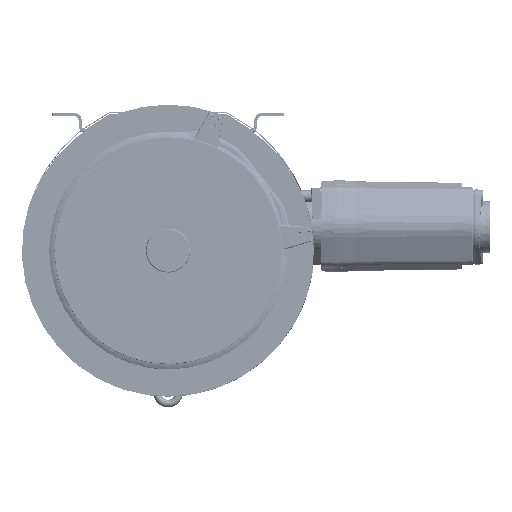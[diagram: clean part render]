
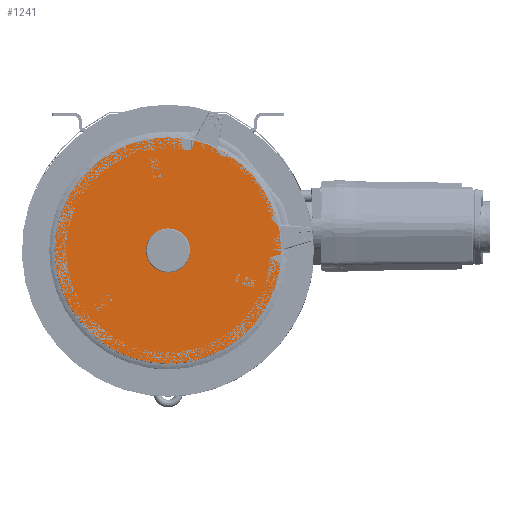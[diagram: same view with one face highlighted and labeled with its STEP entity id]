
A CAD part, top view. The second image highlights one B-rep face of the part: STEP entity #1241.
In plain terms, the highlighted planar face has unit normal (0, 0, 1).
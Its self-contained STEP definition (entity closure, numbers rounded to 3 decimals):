
#419=CARTESIAN_POINT('',(0.,0.,185.69));
#420=DIRECTION('',(0.,0.,-1.));
#421=DIRECTION('',(0.,-1.,0.));
#422=AXIS2_PLACEMENT_3D('',#419,#420,#421);
#424=CARTESIAN_POINT('',(0.,0.,185.69));
#425=DIRECTION('',(0.,0.,1.));
#426=DIRECTION('',(0.,-1.,0.));
#427=AXIS2_PLACEMENT_3D('',#424,#425,#426);
#429=CARTESIAN_POINT('',(0.,0.,185.69));
#430=DIRECTION('',(0.,0.,1.));
#431=DIRECTION('',(0.,-1.,0.));
#432=AXIS2_PLACEMENT_3D('',#429,#430,#431);
#438=CARTESIAN_POINT('',(0.,0.,185.69));
#439=DIRECTION('',(0.,0.,-1.));
#440=DIRECTION('',(0.,-1.,0.));
#441=AXIS2_PLACEMENT_3D('',#438,#439,#440);
#549=CARTESIAN_POINT('',(0.,-143.622,185.69));
#550=VERTEX_POINT('',#549);
#551=CARTESIAN_POINT('',(0.,-28.054,185.69));
#553=VERTEX_POINT('',#551);
#585=CARTESIAN_POINT('',(0.,143.622,185.69));
#586=VERTEX_POINT('',#585);
#587=CARTESIAN_POINT('',(0.,28.054,185.69));
#589=VERTEX_POINT('',#587);
#1226=CARTESIAN_POINT('',(0.,0.,185.69));
#1227=DIRECTION('',(0.,0.,1.));
#1228=DIRECTION('',(0.,-1.,0.));
#1229=AXIS2_PLACEMENT_3D('',#1226,#1227,#1228);
#1230=PLANE('',#1229);
#1231=ORIENTED_EDGE('',*,*,#1221,.T.);
#1232=ORIENTED_EDGE('',*,*,#1205,.F.);
#1233=EDGE_LOOP('',(#1231,#1232));
#1234=FACE_OUTER_BOUND('',#1233,.F.);
#1236=ORIENTED_EDGE('',*,*,#1235,.T.);
#1238=ORIENTED_EDGE('',*,*,#1237,.F.);
#1239=EDGE_LOOP('',(#1236,#1238));
#1240=FACE_BOUND('',#1239,.F.);
#423=CIRCLE('',#422,143.622);
#428=CIRCLE('',#427,143.622);
#433=CIRCLE('',#432,28.054);
#442=CIRCLE('',#441,28.054);
#1205=EDGE_CURVE('',#550,#586,#428,.T.);
#1221=EDGE_CURVE('',#550,#586,#423,.T.);
#1235=EDGE_CURVE('',#553,#589,#433,.T.);
#1237=EDGE_CURVE('',#553,#589,#442,.T.);
#1241=ADVANCED_FACE('',(#1234,#1240),#1230,.T.);
